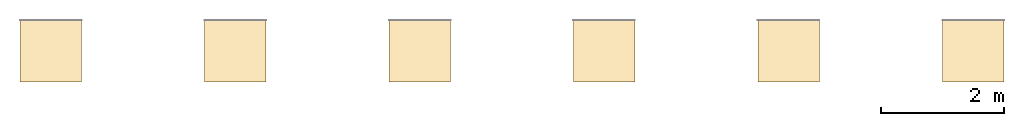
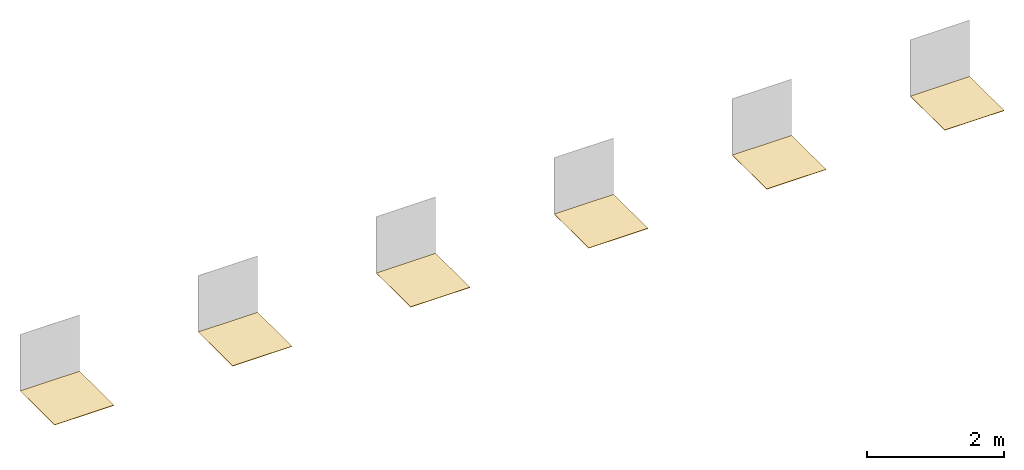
# One storey, part 2 of 2: 6 coverings.
"""IFC2X3 building model written with IfcOpenShell, lengths in millimetres."""

from ifc_helpers import new_model, entity, si_unit, converted_unit, derived_unit, direction, frame, frame_2d, origin, place, context, subcontext, project, spatial, rectangle, extrude, material, layer, layer_set, layer_usage, type_object, element, save


model = new_model("IFC2X3")

# Units and contexts
model_context = context("Model", 3, precision=0.01, world=origin(), true_north=direction((6.12303176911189e-17, 1.0)))
body_context = subcontext(model_context, "Body", "Model", "MODEL_VIEW")
ifc_project = project(units=[si_unit("LENGTHUNIT", "METRE", prefix="MILLI"), si_unit("AREAUNIT", "SQUARE_METRE"), si_unit("VOLUMEUNIT", "CUBIC_METRE"), converted_unit("PLANEANGLEUNIT", "DEGREE", entity("IfcRatioMeasure", 0.0174532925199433), si_unit("PLANEANGLEUNIT", "RADIAN"), dimensions=[0, 0, 0, 0, 0, 0, 0]), si_unit("MASSUNIT", "GRAM", prefix="KILO"), derived_unit("MASSDENSITYUNIT", [(si_unit("MASSUNIT", "GRAM", prefix="KILO"), 1), (si_unit("LENGTHUNIT", "METRE"), -3)]), derived_unit("MOMENTOFINERTIAUNIT", [(si_unit("LENGTHUNIT", "METRE"), 4)]), si_unit("TIMEUNIT", "SECOND"), si_unit("FREQUENCYUNIT", "HERTZ"), si_unit("THERMODYNAMICTEMPERATUREUNIT", "DEGREE_CELSIUS"), derived_unit("THERMALTRANSMITTANCEUNIT", [(si_unit("MASSUNIT", "GRAM", prefix="KILO"), 1), (si_unit("THERMODYNAMICTEMPERATUREUNIT", "KELVIN"), -1), (si_unit("TIMEUNIT", "SECOND"), -3)]), derived_unit("VOLUMETRICFLOWRATEUNIT", [(si_unit("LENGTHUNIT", "METRE"), 3), (si_unit("TIMEUNIT", "SECOND"), -1)]), si_unit("ELECTRICCURRENTUNIT", "AMPERE"), si_unit("ELECTRICVOLTAGEUNIT", "VOLT"), si_unit("POWERUNIT", "WATT"), si_unit("FORCEUNIT", "NEWTON", prefix="KILO"), si_unit("ILLUMINANCEUNIT", "LUX"), si_unit("LUMINOUSFLUXUNIT", "LUMEN"), si_unit("LUMINOUSINTENSITYUNIT", "CANDELA"), derived_unit("USERDEFINED", [(si_unit("MASSUNIT", "GRAM", prefix="KILO"), -1), (si_unit("LENGTHUNIT", "METRE"), -2), (si_unit("TIMEUNIT", "SECOND"), 3), (si_unit("LUMINOUSFLUXUNIT", "LUMEN"), 1)]), derived_unit("LINEARVELOCITYUNIT", [(si_unit("LENGTHUNIT", "METRE"), 1), (si_unit("TIMEUNIT", "SECOND"), -1)]), si_unit("PRESSUREUNIT", "PASCAL"), derived_unit("USERDEFINED", [(si_unit("LENGTHUNIT", "METRE"), -2), (si_unit("MASSUNIT", "GRAM", prefix="KILO"), 1), (si_unit("TIMEUNIT", "SECOND"), -2)]), derived_unit("LINEARFORCEUNIT", [(si_unit("MASSUNIT", "GRAM", prefix="KILO"), 1), (si_unit("LENGTHUNIT", "METRE"), 1), (si_unit("TIMEUNIT", "SECOND"), -2), (si_unit("LENGTHUNIT", "METRE"), -1)]), derived_unit("PLANARFORCEUNIT", [(si_unit("MASSUNIT", "GRAM", prefix="KILO"), 1), (si_unit("LENGTHUNIT", "METRE"), 1), (si_unit("TIMEUNIT", "SECOND"), -2), (si_unit("LENGTHUNIT", "METRE"), -2)])], contexts=[model_context])

# Site, building, storey
site_placement = place(None, origin())
site = spatial("IfcSite", under=ifc_project, at=site_placement, Name="Default", CompositionType="ELEMENT")
building_placement = place(site_placement, origin())
building = spatial("IfcBuilding", under=site, at=building_placement, CompositionType="ELEMENT")
storey_placement = place(building_placement, origin())
storey = spatial("IfcBuildingStorey", under=building, at=storey_placement, Name="Level 1", CompositionType="ELEMENT", Elevation=0.0)

# Coverings
ifc_material_1 = material(Name="REVIGRÉS-URBAN-DECOR-30X30-RECT-STRATUS 36 -ANTRACITE")
ifc_layer_1 = layer(ifc_material_1, 7.7)
ifc_layer_set_1 = layer_set([ifc_layer_1], Name="Floor:REVIGRÉS-URBAN-DECOR-29.5X29.5-RECT-STRATUS 36-ANTRACITE")
ifc_layer_usage_1 = layer_usage(ifc_layer_set_1, "AXIS3", "POSITIVE", 0.0)
covering_type_1 = type_object("IfcCoveringType", Name="Floor:REVIGRÉS-URBAN-DECOR-29.5X29.5-RECT-STRATUS 36-ANTRACITE", PredefinedType="CLADDING", material=ifc_layer_set_1)
covering_1_placement = place(storey_placement, origin())
element("IfcCovering", 1, at=covering_1_placement, inside=storey, type_object=covering_type_1, material=ifc_layer_usage_1, Name="Floor:REVIGRÉS-URBAN-DECOR-29.5X29.5-RECT-STRATUS 36-ANTRACITE", ObjectType="Floor:REVIGRÉS-URBAN-DECOR-29.5X29.5-RECT-STRATUS 36-ANTRACITE", PredefinedType="CLADDING", context=body_context, shape_type="SweptSolid", body=[
    extrude(rectangle(XDim=1000.0, YDim=1000.0, at=frame_2d((-1.4210854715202e-13, 0.0), x_axis=(1.0, 0.0))), frame((3278.64271399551, -1691.92420263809, 0.0), z_axis=(0.0, 0.0, -1.0), x_axis=(0.0, 1.0, 0.0)), (0.0, 0.0, 1.0), 7.7),
])
ifc_material_2 = material(Name="REVIGRÉS-URBAN-DECOR-30X30-RECT-STRATUS 36-BONE")
ifc_layer_2 = layer(ifc_material_2, 7.7)
ifc_layer_set_2 = layer_set([ifc_layer_2], Name="Floor:REVIGRÉS-URBAN-DECOR-29.5X29.5-RECT-STRATUS 36-BONE")
ifc_layer_usage_2 = layer_usage(ifc_layer_set_2, "AXIS3", "POSITIVE", 0.0)
covering_type_2 = type_object("IfcCoveringType", Name="Floor:REVIGRÉS-URBAN-DECOR-29.5X29.5-RECT-STRATUS 36-BONE", PredefinedType="CLADDING", material=ifc_layer_set_2)
covering_2_placement = place(storey_placement, origin())
element("IfcCovering", 2, at=covering_2_placement, inside=storey, type_object=covering_type_2, material=ifc_layer_usage_2, Name="Floor:REVIGRÉS-URBAN-DECOR-29.5X29.5-RECT-STRATUS 36-BONE", ObjectType="Floor:REVIGRÉS-URBAN-DECOR-29.5X29.5-RECT-STRATUS 36-BONE", PredefinedType="CLADDING", context=body_context, shape_type="SweptSolid", body=[
    extrude(rectangle(XDim=1000.0, YDim=1000.0, at=frame_2d((-1.4210854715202e-13, 0.0), x_axis=(1.0, 0.0))), frame((6278.64271399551, -1691.92420263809, 0.0), z_axis=(0.0, 0.0, -1.0), x_axis=(0.0, 1.0, 0.0)), (0.0, 0.0, 1.0), 7.7),
])
ifc_material_3 = material(Name="REVIGRÉS-URBAN-DECOR-30X30-RECT-STRATUS 36-CRAFT")
ifc_layer_3 = layer(ifc_material_3, 7.7)
ifc_layer_set_3 = layer_set([ifc_layer_3], Name="Floor:REVIGRÉS-URBAN-DECOR-29.5X29.5-RECT-STRATUS 36-CRAFT")
ifc_layer_usage_3 = layer_usage(ifc_layer_set_3, "AXIS3", "POSITIVE", 0.0)
covering_type_3 = type_object("IfcCoveringType", Name="Floor:REVIGRÉS-URBAN-DECOR-29.5X29.5-RECT-STRATUS 36-CRAFT", PredefinedType="CLADDING", material=ifc_layer_set_3)
covering_3_placement = place(storey_placement, origin())
element("IfcCovering", 3, at=covering_3_placement, inside=storey, type_object=covering_type_3, material=ifc_layer_usage_3, Name="Floor:REVIGRÉS-URBAN-DECOR-29.5X29.5-RECT-STRATUS 36-CRAFT", ObjectType="Floor:REVIGRÉS-URBAN-DECOR-29.5X29.5-RECT-STRATUS 36-CRAFT", PredefinedType="CLADDING", context=body_context, shape_type="SweptSolid", body=[
    extrude(rectangle(XDim=1000.0, YDim=999.999999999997, at=frame_2d((-8.5265128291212e-14, -5.6843418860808e-13), x_axis=(1.0, 0.0))), frame((9278.64271399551, -1691.92420263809, 0.0), z_axis=(0.0, 0.0, -1.0), x_axis=(0.0, 1.0, 0.0)), (0.0, 0.0, 1.0), 7.7),
])
ifc_material_4 = material(Name="REVIGRÉS-URBAN-DECOR-30X30-RECT-STRATUS 36-FOG")
ifc_layer_4 = layer(ifc_material_4, 7.7)
ifc_layer_set_4 = layer_set([ifc_layer_4], Name="Floor:REVIGRÉS-URBAN-DECOR-29.5X29.5-RECT-STRATUS 36-FOG")
ifc_layer_usage_4 = layer_usage(ifc_layer_set_4, "AXIS3", "POSITIVE", 0.0)
covering_type_4 = type_object("IfcCoveringType", Name="Floor:REVIGRÉS-URBAN-DECOR-29.5X29.5-RECT-STRATUS 36-FOG", PredefinedType="CLADDING", material=ifc_layer_set_4)
covering_4_placement = place(storey_placement, origin())
element("IfcCovering", 4, at=covering_4_placement, inside=storey, type_object=covering_type_4, material=ifc_layer_usage_4, Name="Floor:REVIGRÉS-URBAN-DECOR-29.5X29.5-RECT-STRATUS 36-FOG", ObjectType="Floor:REVIGRÉS-URBAN-DECOR-29.5X29.5-RECT-STRATUS 36-FOG", PredefinedType="CLADDING", context=body_context, shape_type="SweptSolid", body=[
    extrude(rectangle(XDim=1000.0, YDim=1000.0, at=frame_2d((-1.4210854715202e-13, -1.08002495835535e-12), x_axis=(1.0, 0.0))), frame((12278.6427139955, -1691.92420263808, 0.0), z_axis=(0.0, 0.0, -1.0), x_axis=(0.0, 1.0, 0.0)), (0.0, 0.0, 1.0), 7.7),
])
ifc_material_5 = material(Name="REVIGRÉS-URBAN-DECOR-30X30-RECT-STRATUS 36-GRIS")
ifc_layer_5 = layer(ifc_material_5, 7.7)
ifc_layer_set_5 = layer_set([ifc_layer_5], Name="Floor:REVIGRÉS-URBAN-DECOR-29.5X29.5-RECT-STRATUS 36-GRIS")
ifc_layer_usage_5 = layer_usage(ifc_layer_set_5, "AXIS3", "POSITIVE", 0.0)
covering_type_5 = type_object("IfcCoveringType", Name="Floor:REVIGRÉS-URBAN-DECOR-29.5X29.5-RECT-STRATUS 36-GRIS", PredefinedType="CLADDING", material=ifc_layer_set_5)
covering_5_placement = place(storey_placement, origin())
element("IfcCovering", 5, at=covering_5_placement, inside=storey, type_object=covering_type_5, material=ifc_layer_usage_5, Name="Floor:REVIGRÉS-URBAN-DECOR-29.5X29.5-RECT-STRATUS 36-GRIS", ObjectType="Floor:REVIGRÉS-URBAN-DECOR-29.5X29.5-RECT-STRATUS 36-GRIS", PredefinedType="CLADDING", context=body_context, shape_type="SweptSolid", body=[
    extrude(rectangle(XDim=1000.0, YDim=1000.0, at=frame_2d((-1.4210854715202e-13, -1.08002495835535e-12), x_axis=(1.0, 0.0))), frame((15278.6427139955, -1691.92420263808, 0.0), z_axis=(0.0, 0.0, -1.0), x_axis=(0.0, 1.0, 0.0)), (0.0, 0.0, 1.0), 7.7),
])
ifc_material_6 = material(Name="REVIGRÉS-URBAN-DECOR-30X30-RECT-STRATUS 36-OFFWHITE")
ifc_layer_6 = layer(ifc_material_6, 7.7)
ifc_layer_set_6 = layer_set([ifc_layer_6], Name="Floor:REVIGRÉS-URBAN-DECOR-29.5X29.5-RECT-STRATUS 36-OFFWHITE")
ifc_layer_usage_6 = layer_usage(ifc_layer_set_6, "AXIS3", "POSITIVE", 0.0)
covering_type_6 = type_object("IfcCoveringType", Name="Floor:REVIGRÉS-URBAN-DECOR-29.5X29.5-RECT-STRATUS 36-OFFWHITE", PredefinedType="CLADDING", material=ifc_layer_set_6)
covering_6_placement = place(storey_placement, origin())
element("IfcCovering", 6, at=covering_6_placement, inside=storey, type_object=covering_type_6, material=ifc_layer_usage_6, Name="Floor:REVIGRÉS-URBAN-DECOR-29.5X29.5-RECT-STRATUS 36-OFFWHITE", ObjectType="Floor:REVIGRÉS-URBAN-DECOR-29.5X29.5-RECT-STRATUS 36-OFFWHITE", PredefinedType="CLADDING", context=body_context, shape_type="SweptSolid", body=[
    extrude(rectangle(XDim=1000.0, YDim=1000.0, at=frame_2d((-1.4210854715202e-13, 0.0), x_axis=(1.0, 0.0))), frame((18278.6427139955, -1691.92420263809, 0.0), z_axis=(0.0, 0.0, -1.0), x_axis=(0.0, 1.0, 0.0)), (0.0, 0.0, 1.0), 7.7),
])

save(model, "model.ifc")
